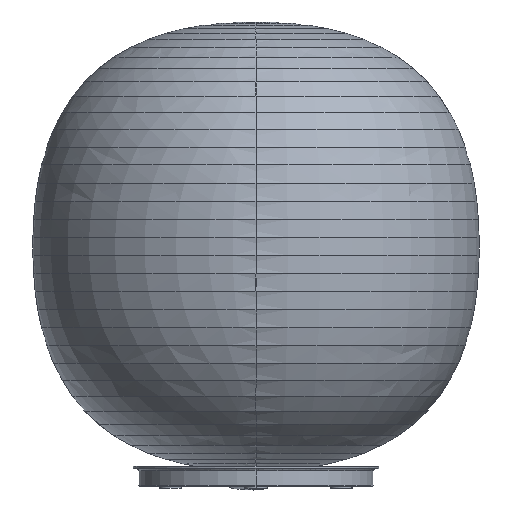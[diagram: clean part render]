
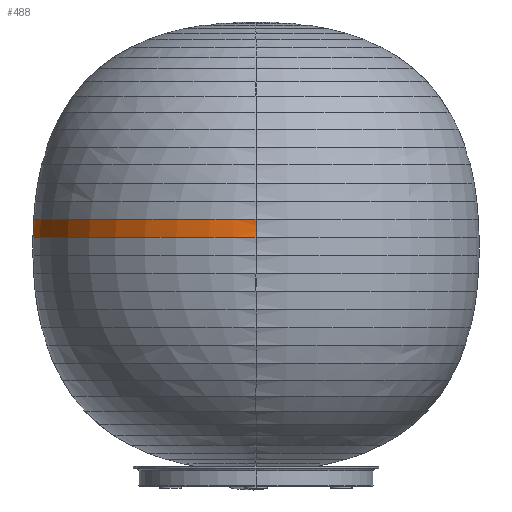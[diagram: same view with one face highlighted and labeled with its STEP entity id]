
A CAD part, left-side view. The second image highlights one B-rep face of the part: STEP entity #488.
In plain terms, the highlighted free-form (B-spline) face has degree [2, 3] with [9, 7] control points.
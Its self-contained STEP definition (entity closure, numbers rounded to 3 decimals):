
#488=ADVANCED_FACE('',(#913),#6451,.T.);
#913=FACE_OUTER_BOUND('',#1356,.T.);
#1356=EDGE_LOOP('',(#2989,#2990,#2991,#2992));
#2989=ORIENTED_EDGE('',*,*,#4243,.T.);
#2990=ORIENTED_EDGE('',*,*,#4242,.F.);
#2991=ORIENTED_EDGE('',*,*,#4245,.T.);
#2992=ORIENTED_EDGE('',*,*,#4244,.T.);
#4242=EDGE_CURVE('',#5963,#5962,#5397,.T.);
#4243=EDGE_CURVE('',#5964,#5962,#5020,.T.);
#4244=EDGE_CURVE('',#5965,#5964,#5398,.T.);
#4245=EDGE_CURVE('',#5963,#5965,#5021,.T.);
#5020=B_SPLINE_CURVE_WITH_KNOTS('',3,(#34017,#34018,#34019,#34020,#34021),
 .UNSPECIFIED.,.F.,.F.,(4,1,4),(-1.,-0.502,0.),
 .UNSPECIFIED.);
#5021=B_SPLINE_CURVE_WITH_KNOTS('',3,(#34027,#34028,#34029,#34030,#34031),
 .UNSPECIFIED.,.F.,.F.,(4,1,4),(0.,0.502,1.),.UNSPECIFIED.);
#5397=(
BOUNDED_CURVE()
B_SPLINE_CURVE(2,(#34012,#34013,#34014,#34015,#34016),.UNSPECIFIED.,.F.,
 .F.)
B_SPLINE_CURVE_WITH_KNOTS((3,2,3),(-626.312,-313.156,
0.),.UNSPECIFIED.)
CURVE()
GEOMETRIC_REPRESENTATION_ITEM()
RATIONAL_B_SPLINE_CURVE((1.,0.707,1.,0.707,1.))
REPRESENTATION_ITEM('')
);
#5398=(
BOUNDED_CURVE()
B_SPLINE_CURVE(2,(#34022,#34023,#34024,#34025,#34026),.UNSPECIFIED.,.F.,
 .F.)
B_SPLINE_CURVE_WITH_KNOTS((3,2,3),(-628.319,-314.159,
0.),.UNSPECIFIED.)
CURVE()
GEOMETRIC_REPRESENTATION_ITEM()
RATIONAL_B_SPLINE_CURVE((1.,0.707,1.,0.707,1.))
REPRESENTATION_ITEM('')
);
#5962=VERTEX_POINT('',#33522);
#5963=VERTEX_POINT('',#33523);
#5964=VERTEX_POINT('',#33524);
#5965=VERTEX_POINT('',#33525);
#6451=(
BOUNDED_SURFACE()
B_SPLINE_SURFACE(2,3,((#30021,#30022,#30023,#30024,#30025,#30026,#30027),
(#30028,#30029,#30030,#30031,#30032,#30033,#30034),(#30035,#30036,#30037,
#30038,#30039,#30040,#30041),(#30042,#30043,#30044,#30045,#30046,#30047,
#30048),(#30049,#30050,#30051,#30052,#30053,#30054,#30055),(#30056,#30057,
#30058,#30059,#30060,#30061,#30062),(#30063,#30064,#30065,#30066,#30067,
#30068,#30069),(#30070,#30071,#30072,#30073,#30074,#30075,#30076),(#30077,
#30078,#30079,#30080,#30081,#30082,#30083)),.UNSPECIFIED.,.T.,.F.,.F.)
B_SPLINE_SURFACE_WITH_KNOTS((3,2,2,2,3),(4,1,1,1,4),(0.,314.365,
628.73,943.095,1257.46),(0.,0.537,
8.634,16.805,17.342),.UNSPECIFIED.)
GEOMETRIC_REPRESENTATION_ITEM()
RATIONAL_B_SPLINE_SURFACE(((1.,1.,1.,1.,1.,1.,1.),(0.707,0.707,
0.707,0.707,0.707,0.707,
0.707),(1.,1.,1.,1.,1.,1.,1.),(0.707,0.707,
0.707,0.707,0.707,0.707,
0.707),(1.,1.,1.,1.,1.,1.,1.),(0.707,0.707,
0.707,0.707,0.707,0.707,
0.707),(1.,1.,1.,1.,1.,1.,1.),(0.707,0.707,
0.707,0.707,0.707,0.707,
0.707),(1.,1.,1.,1.,1.,1.,1.)))
REPRESENTATION_ITEM('')
SURFACE()
);
#30021=CARTESIAN_POINT('',(4213.889,4503.818,200.131));
#30022=CARTESIAN_POINT('',(4213.889,4503.645,200.086));
#30023=CARTESIAN_POINT('',(4213.889,4500.859,199.384));
#30024=CARTESIAN_POINT('',(4213.889,4495.281,198.577));
#30025=CARTESIAN_POINT('',(4213.889,4489.656,198.936));
#30026=CARTESIAN_POINT('',(4213.889,4486.799,199.42));
#30027=CARTESIAN_POINT('',(4213.889,4486.623,199.451));
#30028=CARTESIAN_POINT('',(4013.758,4503.818,200.131));
#30029=CARTESIAN_POINT('',(4013.803,4503.645,200.086));
#30030=CARTESIAN_POINT('',(4014.505,4500.859,199.384));
#30031=CARTESIAN_POINT('',(4015.312,4495.281,198.577));
#30032=CARTESIAN_POINT('',(4014.953,4489.656,198.936));
#30033=CARTESIAN_POINT('',(4014.469,4486.799,199.42));
#30034=CARTESIAN_POINT('',(4014.438,4486.623,199.451));
#30035=CARTESIAN_POINT('',(4013.758,4503.818,0.));
#30036=CARTESIAN_POINT('',(4013.803,4503.645,0.));
#30037=CARTESIAN_POINT('',(4014.505,4500.859,0.));
#30038=CARTESIAN_POINT('',(4015.312,4495.281,0.));
#30039=CARTESIAN_POINT('',(4014.953,4489.656,0.));
#30040=CARTESIAN_POINT('',(4014.469,4486.799,0.));
#30041=CARTESIAN_POINT('',(4014.438,4486.623,0.));
#30042=CARTESIAN_POINT('',(4013.758,4503.818,-200.131));
#30043=CARTESIAN_POINT('',(4013.803,4503.645,-200.086));
#30044=CARTESIAN_POINT('',(4014.505,4500.859,-199.384));
#30045=CARTESIAN_POINT('',(4015.312,4495.281,-198.577));
#30046=CARTESIAN_POINT('',(4014.953,4489.656,-198.936));
#30047=CARTESIAN_POINT('',(4014.469,4486.799,-199.42));
#30048=CARTESIAN_POINT('',(4014.438,4486.623,-199.451));
#30049=CARTESIAN_POINT('',(4213.889,4503.818,-200.131));
#30050=CARTESIAN_POINT('',(4213.889,4503.645,-200.086));
#30051=CARTESIAN_POINT('',(4213.889,4500.859,-199.384));
#30052=CARTESIAN_POINT('',(4213.889,4495.281,-198.577));
#30053=CARTESIAN_POINT('',(4213.889,4489.656,-198.936));
#30054=CARTESIAN_POINT('',(4213.889,4486.799,-199.42));
#30055=CARTESIAN_POINT('',(4213.889,4486.623,-199.451));
#30056=CARTESIAN_POINT('',(4414.02,4503.818,-200.131));
#30057=CARTESIAN_POINT('',(4413.975,4503.645,-200.086));
#30058=CARTESIAN_POINT('',(4413.273,4500.859,-199.384));
#30059=CARTESIAN_POINT('',(4412.466,4495.281,-198.577));
#30060=CARTESIAN_POINT('',(4412.825,4489.656,-198.936));
#30061=CARTESIAN_POINT('',(4413.309,4486.799,-199.42));
#30062=CARTESIAN_POINT('',(4413.34,4486.623,-199.451));
#30063=CARTESIAN_POINT('',(4414.02,4503.818,0.));
#30064=CARTESIAN_POINT('',(4413.975,4503.645,0.));
#30065=CARTESIAN_POINT('',(4413.273,4500.859,0.));
#30066=CARTESIAN_POINT('',(4412.466,4495.281,0.));
#30067=CARTESIAN_POINT('',(4412.825,4489.656,0.));
#30068=CARTESIAN_POINT('',(4413.309,4486.799,0.));
#30069=CARTESIAN_POINT('',(4413.34,4486.623,0.));
#30070=CARTESIAN_POINT('',(4414.02,4503.818,200.131));
#30071=CARTESIAN_POINT('',(4413.975,4503.645,200.086));
#30072=CARTESIAN_POINT('',(4413.273,4500.859,199.384));
#30073=CARTESIAN_POINT('',(4412.466,4495.281,198.577));
#30074=CARTESIAN_POINT('',(4412.825,4489.656,198.936));
#30075=CARTESIAN_POINT('',(4413.309,4486.799,199.42));
#30076=CARTESIAN_POINT('',(4413.34,4486.623,199.451));
#30077=CARTESIAN_POINT('',(4213.889,4503.818,200.131));
#30078=CARTESIAN_POINT('',(4213.889,4503.645,200.086));
#30079=CARTESIAN_POINT('',(4213.889,4500.859,199.384));
#30080=CARTESIAN_POINT('',(4213.889,4495.281,198.577));
#30081=CARTESIAN_POINT('',(4213.889,4489.656,198.936));
#30082=CARTESIAN_POINT('',(4213.889,4486.799,199.42));
#30083=CARTESIAN_POINT('',(4213.889,4486.623,199.451));
#33522=CARTESIAN_POINT('',(4413.25,4487.151,0.));
#33523=CARTESIAN_POINT('',(4014.528,4487.151,0.));
#33524=CARTESIAN_POINT('',(4413.889,4503.298,0.));
#33525=CARTESIAN_POINT('',(4013.889,4503.298,0.));
#34012=CARTESIAN_POINT('',(4014.528,4487.151,0.));
#34013=CARTESIAN_POINT('',(4014.528,4487.151,-199.361));
#34014=CARTESIAN_POINT('',(4213.889,4487.151,-199.361));
#34015=CARTESIAN_POINT('',(4413.25,4487.151,-199.361));
#34016=CARTESIAN_POINT('',(4413.25,4487.151,0.));
#34017=CARTESIAN_POINT('',(4413.889,4503.298,0.));
#34018=CARTESIAN_POINT('',(4413.247,4500.681,0.));
#34019=CARTESIAN_POINT('',(4412.466,4495.281,0.));
#34020=CARTESIAN_POINT('',(4412.813,4489.836,0.));
#34021=CARTESIAN_POINT('',(4413.25,4487.151,0.));
#34022=CARTESIAN_POINT('',(4013.889,4503.298,0.));
#34023=CARTESIAN_POINT('',(4013.889,4503.298,-200.));
#34024=CARTESIAN_POINT('',(4213.889,4503.298,-200.));
#34025=CARTESIAN_POINT('',(4413.889,4503.298,-200.));
#34026=CARTESIAN_POINT('',(4413.889,4503.298,0.));
#34027=CARTESIAN_POINT('',(4014.528,4487.151,0.));
#34028=CARTESIAN_POINT('',(4014.965,4489.836,0.));
#34029=CARTESIAN_POINT('',(4015.312,4495.281,0.));
#34030=CARTESIAN_POINT('',(4014.531,4500.681,0.));
#34031=CARTESIAN_POINT('',(4013.889,4503.298,0.));
